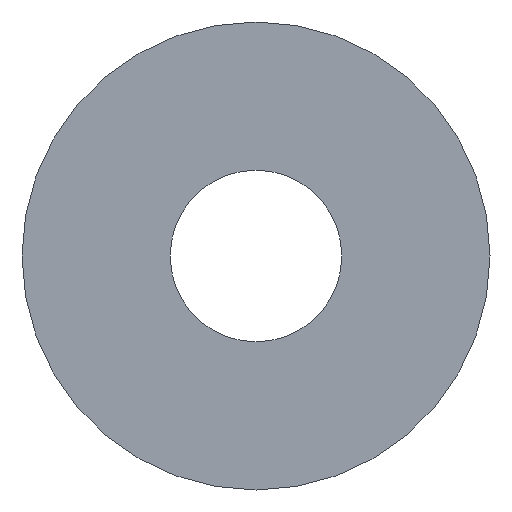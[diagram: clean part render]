
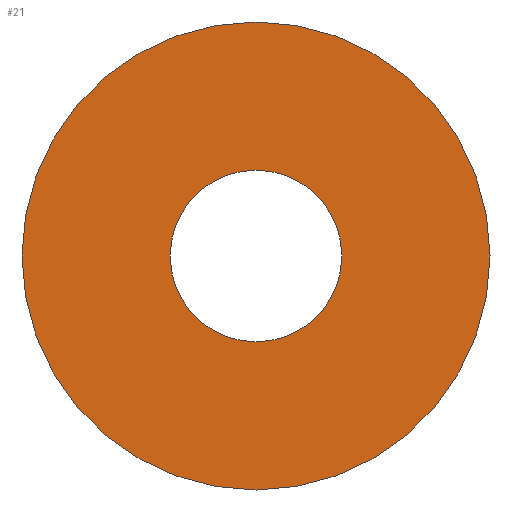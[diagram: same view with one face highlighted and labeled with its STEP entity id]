
A CAD part, front view. The second image highlights one B-rep face of the part: STEP entity #21.
In plain terms, the highlighted planar face has unit normal (0, -1, 0).
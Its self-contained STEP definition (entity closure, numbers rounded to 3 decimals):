
#7 = EDGE_LOOP ( 'NONE', ( #204, #121 ) ) ;
#13 = AXIS2_PLACEMENT_3D ( 'NONE', #241, #155, #89 ) ;
#16 = EDGE_LOOP ( 'NONE', ( #50, #150 ) ) ;
#21 = ADVANCED_FACE ( 'NONE', ( #39, #157 ), #88, .F. ) ;
#35 = AXIS2_PLACEMENT_3D ( 'NONE', #131, #184, #67 ) ;
#39 = FACE_OUTER_BOUND ( 'NONE', #16, .T. ) ;
#41 = CARTESIAN_POINT ( 'NONE',  ( 0., 0., -11. ) ) ;
#48 = CARTESIAN_POINT ( 'NONE',  ( 0., 0., -30. ) ) ;
#49 = CIRCLE ( 'NONE', #13, 11. ) ;
#50 = ORIENTED_EDGE ( 'NONE', *, *, #199, .F. ) ;
#52 = CARTESIAN_POINT ( 'NONE',  ( 0., 0., 0. ) ) ;
#53 = CARTESIAN_POINT ( 'NONE',  ( 0., 0., 11. ) ) ;
#62 = CIRCLE ( 'NONE', #96, 11. ) ;
#63 = VERTEX_POINT ( 'NONE', #48 ) ;
#67 = DIRECTION ( 'NONE',  ( 0., 0., 1. ) ) ;
#72 = DIRECTION ( 'NONE',  ( 0., 1., 0. ) ) ;
#76 = DIRECTION ( 'NONE',  ( 0., 0., 1. ) ) ;
#77 = DIRECTION ( 'NONE',  ( 0., 0., 1. ) ) ;
#88 = PLANE ( 'NONE',  #154 ) ;
#89 = DIRECTION ( 'NONE',  ( 0., 0., 1. ) ) ;
#93 = CARTESIAN_POINT ( 'NONE',  ( 0., 0., 30. ) ) ;
#96 = AXIS2_PLACEMENT_3D ( 'NONE', #169, #228, #99 ) ;
#97 = DIRECTION ( 'NONE',  ( 0., 1., 0. ) ) ;
#99 = DIRECTION ( 'NONE',  ( 0., 0., 1. ) ) ;
#104 = VERTEX_POINT ( 'NONE', #53 ) ;
#121 = ORIENTED_EDGE ( 'NONE', *, *, #143, .T. ) ;
#125 = EDGE_CURVE ( 'NONE', #144, #63, #164, .T. ) ;
#128 = CARTESIAN_POINT ( 'NONE',  ( 0., 0., 0. ) ) ;
#131 = CARTESIAN_POINT ( 'NONE',  ( 0., 0., 0. ) ) ;
#138 = EDGE_CURVE ( 'NONE', #205, #104, #62, .T. ) ;
#143 = EDGE_CURVE ( 'NONE', #104, #205, #49, .T. ) ;
#144 = VERTEX_POINT ( 'NONE', #93 ) ;
#150 = ORIENTED_EDGE ( 'NONE', *, *, #125, .F. ) ;
#154 = AXIS2_PLACEMENT_3D ( 'NONE', #128, #97, #77 ) ;
#155 = DIRECTION ( 'NONE',  ( 0., 1., 0. ) ) ;
#157 = FACE_BOUND ( 'NONE', #7, .T. ) ;
#164 = CIRCLE ( 'NONE', #191, 30. ) ;
#169 = CARTESIAN_POINT ( 'NONE',  ( 0., 0., 0. ) ) ;
#184 = DIRECTION ( 'NONE',  ( 0., 1., 0. ) ) ;
#189 = CIRCLE ( 'NONE', #35, 30. ) ;
#191 = AXIS2_PLACEMENT_3D ( 'NONE', #52, #72, #76 ) ;
#199 = EDGE_CURVE ( 'NONE', #63, #144, #189, .T. ) ;
#204 = ORIENTED_EDGE ( 'NONE', *, *, #138, .T. ) ;
#205 = VERTEX_POINT ( 'NONE', #41 ) ;
#228 = DIRECTION ( 'NONE',  ( 0., 1., 0. ) ) ;
#241 = CARTESIAN_POINT ( 'NONE',  ( 0., 0., 0. ) ) ;
